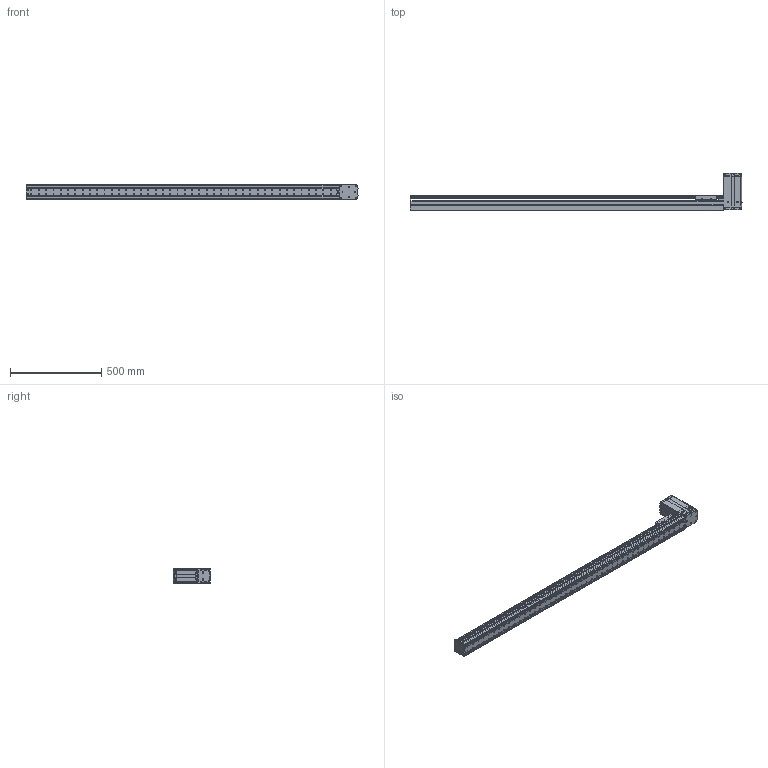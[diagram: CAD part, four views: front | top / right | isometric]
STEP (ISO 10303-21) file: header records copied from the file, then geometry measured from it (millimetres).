
FILE_DESCRIPTION((''),'2;1');
FILE_NAME('BE10_-BT-M_N-F0_IGS_PRT','2017-06-18T',(' '),(''),'PRO/ENGINEER BY PARAMETRIC TECHNOLOGY CORPORATION, 2015030','PRO/ENGINEER BY PARAMETRIC TECHNOLOGY CORPORATION, 2015030','');
FILE_SCHEMA(('CONFIG_CONTROL_DESIGN'));
Products named in the file (1): BE10_-BT-M_N-F0_IGS_PRT
Bounding box: 1820.8 x 204.72 x 78 mm (x, y, z)
Volume: 2520907.6 mm3; surface area: 1704162.6 mm2
Topology: 2 solids, 171 shells, 2308 faces, 6311 edges, 4185 vertices
Faces by surface type: plane 1074, cylinder 1071, cone 107, sphere 28, torus 25, bspline 3
Entity records: 75437 total; most frequent: CARTESIAN_POINT 15500, DIRECTION 12757, ORIENTED_EDGE 11894, EDGE_CURVE 6249, AXIS2_PLACEMENT_3D 4651, VERTEX_POINT 4185, VECTOR 3455, LINE 3455
